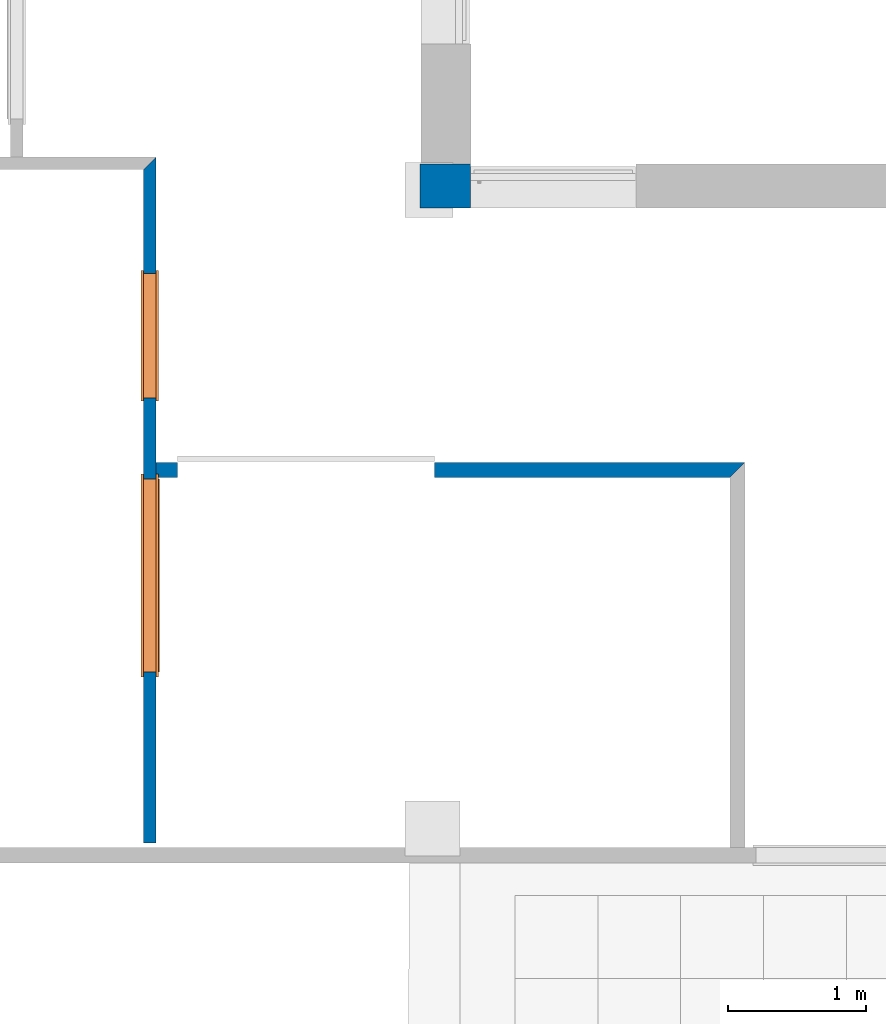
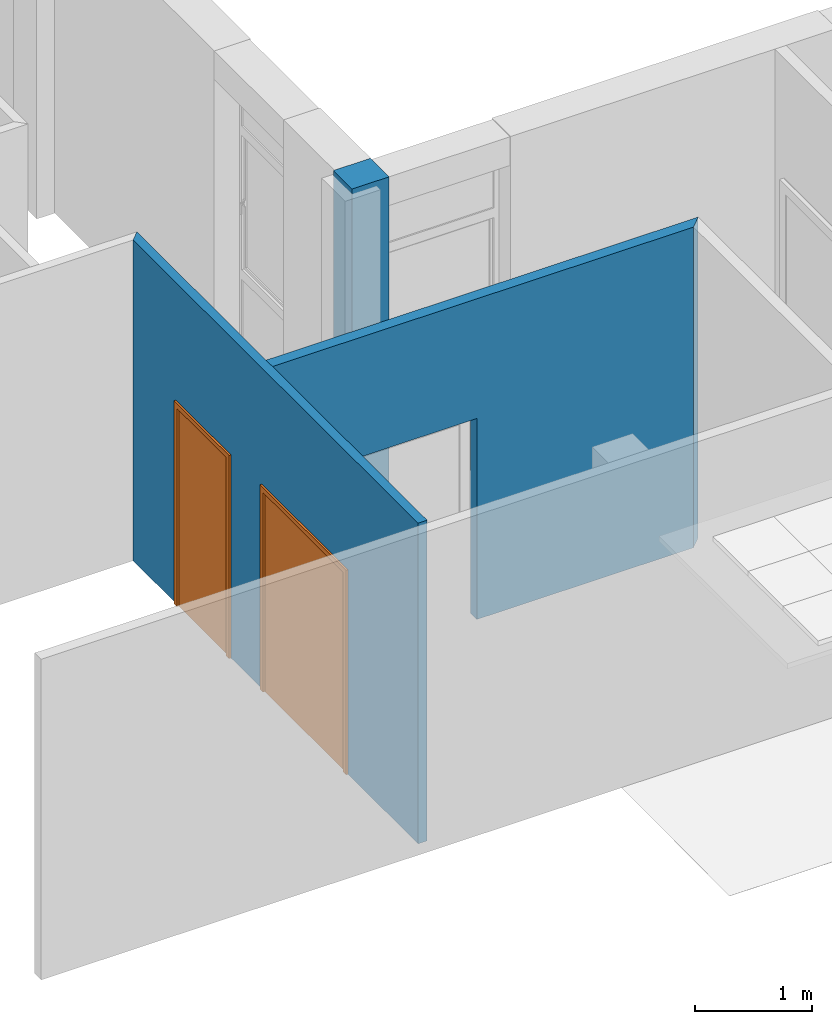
# One storey, part 23 of 60: 3 walls, 2 proxies, 3 openings.
"""IFC2X3 building model written with IfcOpenShell, lengths in millimetres."""

from ifc_helpers import new_model, entity, si_unit, converted_unit, derived_unit, money_unit, direction, frame, origin_with_axes, origin_2d_with_axis, place, context, subcontext, project, spatial, polyline, rectangle, outline, extrude, faceted_brep, source, transform, mapped, material, layer, layer_set, layer_usage, type_object, element, fill, save


model = new_model("IFC2X3")

# Units and contexts
model_context = context("Model", 3, precision=0.01, world=origin_with_axes(), true_north=direction((0.0, 1.0)))
body_context = subcontext(model_context, "Body", "Model", "MODEL_VIEW")
ifc_project = project(units=[si_unit("LENGTHUNIT", "METRE", prefix="MILLI"), si_unit("AREAUNIT", "SQUARE_METRE"), si_unit("VOLUMEUNIT", "CUBIC_METRE"), converted_unit("PLANEANGLEUNIT", "DEGREE", entity("IfcPlaneAngleMeasure", 0.0174532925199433), si_unit("PLANEANGLEUNIT", "RADIAN"), dimensions=[0, 0, 0, 0, 0, 0, 0]), money_unit("USD"), converted_unit("TIMEUNIT", "Year", entity("IfcTimeMeasure", 31557600.0), si_unit("TIMEUNIT", "SECOND"), dimensions=[0, 0, 1, 0, 0, 0, 0]), si_unit("MASSUNIT", "GRAM", prefix="KILO"), si_unit("THERMODYNAMICTEMPERATUREUNIT", "DEGREE_CELSIUS"), si_unit("LUMINOUSINTENSITYUNIT", "LUMEN"), si_unit("ENERGYUNIT", "JOULE", prefix="MEGA"), derived_unit("THERMALCONDUCTANCEUNIT", [(si_unit("POWERUNIT", "WATT"), 1), (si_unit("LENGTHUNIT", "METRE"), -1), (si_unit("THERMODYNAMICTEMPERATUREUNIT", "KELVIN"), -1)]), derived_unit("SPECIFICHEATCAPACITYUNIT", [(si_unit("ENERGYUNIT", "JOULE"), 1), (si_unit("MASSUNIT", "GRAM", prefix="KILO"), -1), (si_unit("THERMODYNAMICTEMPERATUREUNIT", "KELVIN"), -1)]), derived_unit("MASSDENSITYUNIT", [(si_unit("MASSUNIT", "GRAM", prefix="KILO"), 1), (si_unit("VOLUMEUNIT", "CUBIC_METRE"), -1)])], contexts=[model_context])

# Site, building, storey
site_placement = place(None, origin_with_axes())
site = spatial("IfcSite", under=ifc_project, at=site_placement, Name="Sitio", CompositionType="ELEMENT")
building_placement = place(site_placement, origin_with_axes())
building = spatial("IfcBuilding", under=site, at=building_placement, Name="Construcción", CompositionType="ELEMENT")
storey_placement = place(building_placement, frame((0.0, 0.0, 3650.0), z_axis=(0.0, 0.0, 1.0), x_axis=(1.0, 0.0, 0.0)))
storey = spatial("IfcBuildingStorey", under=building, at=storey_placement, Name="PLANTA 2ª", CompositionType="ELEMENT", Elevation=3650.0)

# Wall
ifc_material_1 = material(Name="ARQ_CE217_Gero")
ifc_layer_1 = layer(ifc_material_1, 150.0, ventilated="UNKNOWN")
ifc_material_2 = material(Name="ARQ_AI031_Aillament_Poliestireno expandido EPS")
ifc_layer_2 = layer(ifc_material_2, 100.0, ventilated="UNKNOWN")
ifc_material_3 = material(Name="ARQ_CE218_Ceramic")
ifc_layer_3 = layer(ifc_material_3, 50.0, ventilated="UNKNOWN")
ifc_material_4 = material(Name="ARQ_AM246_Arrebossat_De_Guix")
ifc_layer_4 = layer(ifc_material_4, 20.0, ventilated="UNKNOWN")
ifc_layer_set_1 = layer_set([ifc_layer_1, ifc_layer_2, ifc_layer_3, ifc_layer_4], Name="façana pati CR3")
ifc_layer_usage_1 = layer_usage(ifc_layer_set_1, "AXIS2", "POSITIVE", -320.0)
wall_type_1 = type_object("IfcWallType", Name="façana pati CR3 320", PredefinedType="NOTDEFINED")
wall_1_placement = place(storey_placement, frame((-27692.52587573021, -12338.97582371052, 0.0), z_axis=(0.0, 0.0, 1.0), x_axis=(-1.0, 0.0, 0.0)))
element("IfcWallStandardCase", 1, at=wall_1_placement, inside=storey, type_object=wall_type_1, material=ifc_layer_usage_1, Name="MS-201", context=body_context, shape_type="SweptSolid", body=[
    extrude(outline(polyline([(0.0, -320.0000000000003), (367.6612978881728, -320.0000000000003), (367.6612978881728, 0.0), (0.0, 0.0), (0.0, -320.0000000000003)])), origin_with_axes(), (0.0, 0.0, 1.0), 3350.0),
])

# Wall, opening
ifc_layer_5 = layer(ifc_material_4, 10.0, ventilated="UNKNOWN")
ifc_layer_6 = layer(ifc_material_1, 90.0, ventilated="UNKNOWN")
ifc_layer_7 = layer(ifc_material_4, 10.0, ventilated="UNKNOWN")
ifc_layer_set_2 = layer_set([ifc_layer_5, ifc_layer_6, ifc_layer_7], Name="CR Enva Totxana")
ifc_layer_usage_2 = layer_usage(ifc_layer_set_2, "AXIS2", "POSITIVE", 0.0)
wall_type_2 = type_object("IfcWallType", Name="CR Enva Totxana 110", PredefinedType="NOTDEFINED")
wall_2_placement = place(storey_placement, frame((-25702.67583112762, -14180.94375341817, 0.0), z_axis=(0.0, 0.0, 1.0), x_axis=(-1.0, 0.0, 0.0)))
wall_2 = element("IfcWallStandardCase", 2, at=wall_2_placement, inside=storey, type_object=wall_type_2, material=ifc_layer_usage_2, Name="MS-201", context=body_context, shape_type="SweptSolid", body=[
    extrude(outline(polyline([(0.0, 0.0), (4269.999999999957, 0.0), (4269.999999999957, 109.9999999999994), (109.9999999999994, 109.9999999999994), (0.0, 0.0)])), origin_with_axes(), (0.0, 0.0, 1.0), 3350.0),
])
opening_1_placement = place(wall_2_placement, frame((3181.425102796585, 0.0, 0.0), z_axis=(0.0, 0.0, 1.0), x_axis=(1.0, 0.0, 0.0)))
element("IfcOpeningElement", 3, at=opening_1_placement, cuts=wall_2, Name="PF-13D", context=body_context, shape_type="SweptSolid", body=[
    extrude(rectangle(XDim=1861.353510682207, YDim=2100.0, at=origin_2d_with_axis()), frame((0.0, 109.9999999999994, 1050.0), z_axis=(0.0, -1.0, 0.0), x_axis=(-1.0, 0.0, 0.0)), (0.0, 0.0, 1.0), 329.9999999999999),
])

# Wall, openings, proxies
ifc_layer_8 = layer(ifc_material_4, 10.0, ventilated="UNKNOWN")
ifc_layer_9 = layer(ifc_material_1, 70.0, ventilated="UNKNOWN")
ifc_layer_10 = layer(ifc_material_4, 10.0, ventilated="UNKNOWN")
ifc_layer_set_3 = layer_set([ifc_layer_8, ifc_layer_9, ifc_layer_10], Name="CR Enva Totxaneta")
ifc_layer_usage_3 = layer_usage(ifc_layer_set_3, "AXIS2", "POSITIVE", 0.0)
wall_type_3 = type_object("IfcWallType", Name="CR Enva Totxaneta 90", PredefinedType="NOTDEFINED")
wall_3_placement = place(storey_placement, frame((-29972.67583112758, -16938.97598839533, 0.0), z_axis=(0.0, 0.0, 1.0), x_axis=(0.0, 1.0, 0.0)))
wall_3 = element("IfcWallStandardCase", 4, at=wall_3_placement, inside=storey, type_object=wall_type_3, material=ifc_layer_usage_3, Name="MS-203", context=body_context, shape_type="SweptSolid", body=[
    extrude(outline(polyline([(0.0, 0.0), (4969.247738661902, 0.0), (4879.247738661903, 89.99999999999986), (0.0, 89.99999999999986), (0.0, 0.0)])), origin_with_axes(), (0.0, 0.0, 1.0), 3350.0),
])
opening_2_placement = place(wall_3_placement, frame((3674.227627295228, 0.0, 0.0), z_axis=(0.0, 0.0, 1.0), x_axis=(1.0, 0.0, 0.0)))
opening_2 = element("IfcOpeningElement", 5, at=opening_2_placement, cuts=wall_3, Name="PF-26D", context=body_context, shape_type="SweptSolid", body=[
    extrude(rectangle(XDim=899.9999999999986, YDim=2100.0, at=origin_2d_with_axis()), frame((0.0, -89.99999999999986, 1050.0), z_axis=(0.0, -1.0, 0.0), x_axis=(-1.0, 0.0, 0.0)), (0.0, 0.0, -1.0), 270.0),
    extrude(rectangle(XDim=943.9999999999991, YDim=2122.0, at=origin_2d_with_axis()), frame((0.0, 0.0, 1061.0), z_axis=(0.0, -1.0, 0.0), x_axis=(-1.0, 0.0, 0.0)), (0.0, 0.0, 1.0), 90.0),
    extrude(rectangle(XDim=943.9999999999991, YDim=2122.0, at=origin_2d_with_axis()), frame((0.0, 89.99999999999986, 1061.0), z_axis=(0.0, 1.0, 0.0), x_axis=(-1.0, 0.0, 0.0)), (0.0, 0.0, 1.0), 90.0),
])
opening_3_placement = place(wall_3_placement, frame((1937.365838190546, 0.0, 0.0), z_axis=(0.0, 0.0, 1.0), x_axis=(1.0, 0.0, 0.0)))
opening_3 = element("IfcOpeningElement", 6, at=opening_3_placement, cuts=wall_3, Name="PF-32D", context=body_context, shape_type="SweptSolid", body=[
    extrude(rectangle(XDim=1399.999999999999, YDim=2100.0, at=origin_2d_with_axis()), frame((0.0, -89.99999999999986, 1050.0), z_axis=(0.0, 1.0, 0.0), x_axis=(1.0, 0.0, 0.0)), (0.0, 0.0, 1.0), 270.0),
    extrude(rectangle(XDim=1474.0, YDim=2137.0, at=origin_2d_with_axis()), frame((0.0, 0.0, 1068.5), z_axis=(0.0, 1.0, 0.0), x_axis=(1.0, 0.0, 0.0)), (0.0, 0.0, -1.0), 90.0),
    extrude(rectangle(XDim=1474.0, YDim=2137.0, at=origin_2d_with_axis()), frame((0.0, 89.99999999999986, 1068.5), z_axis=(0.0, -1.0, 0.0), x_axis=(1.0, 0.0, 0.0)), (0.0, 0.0, -1.0), 90.0),
])
building_element_proxy_type_1 = type_object("IfcBuildingElementProxyType", Name="Puerta 27", PredefinedType="NOTDEFINED")
shared_shape_1 = source(origin_with_axes(), body_context, "Body", "Brep", [
    faceted_brep([(472.0000000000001, -109.0, 0.0), (422.0000000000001, -109.0, 0.0), (422.0000000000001, -90.0, 0.0), (472.0000000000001, -90.0, 0.0), (472.0000000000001, -109.0000000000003, 2122.0), (422.0000000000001, -109.0000000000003, 2072.0), (422.0000000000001, -90.00000000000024, 2072.0), (472.0000000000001, -90.00000000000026, 2122.0)], [[[0, 1, 2, 3]], [[0, 4, 5, 1]], [[1, 5, 6, 2]], [[3, 2, 6, 7]], [[4, 0, 3, 7]], [[5, 4, 7, 6]]]),
    faceted_brep([(-472.0000000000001, -109.0000000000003, 2122.0), (-422.0000000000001, -109.0000000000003, 2072.0), (-422.0000000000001, -90.00000000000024, 2072.0), (-472.0000000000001, -90.00000000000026, 2122.0), (-472.0000000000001, -109.0, 0.0), (-422.0000000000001, -109.0, 0.0), (-422.0000000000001, -90.0, 0.0), (-472.0000000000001, -90.0, 0.0)], [[[0, 1, 2, 3]], [[0, 4, 5, 1]], [[1, 5, 6, 2]], [[3, 2, 6, 7]], [[4, 0, 3, 7]], [[5, 4, 7, 6]]]),
    faceted_brep([(472.0000000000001, -109.0000000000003, 2122.0), (422.0000000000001, -109.0000000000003, 2072.0), (422.0000000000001, -90.00000000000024, 2072.0), (472.0000000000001, -90.00000000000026, 2122.0), (-472.0000000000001, -109.0000000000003, 2122.0), (-422.0000000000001, -109.0000000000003, 2072.0), (-422.0000000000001, -90.00000000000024, 2072.0), (-472.0000000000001, -90.00000000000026, 2122.0)], [[[0, 1, 2, 3]], [[0, 4, 5, 1]], [[1, 5, 6, 2]], [[3, 2, 6, 7]], [[4, 0, 3, 7]], [[5, 4, 7, 6]]]),
    faceted_brep([(472.0000000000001, 19.0, 0.0), (472.0000000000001, 0.0, 0.0), (422.0000000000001, 0.0, 0.0), (422.0000000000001, 19.0, 0.0), (472.0000000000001, 18.99999999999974, 2122.0), (472.0000000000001, 0.0, 2122.0), (422.0000000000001, 0.0, 2072.0), (422.0000000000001, 18.99999999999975, 2072.0)], [[[0, 1, 2, 3]], [[4, 5, 1, 0]], [[1, 5, 6, 2]], [[3, 2, 6, 7]], [[0, 3, 7, 4]], [[7, 6, 5, 4]]]),
    faceted_brep([(-472.0000000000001, 18.99999999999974, 2122.0), (-472.0000000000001, 0.0, 2122.0), (-422.0000000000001, 0.0, 2072.0), (-422.0000000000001, 18.99999999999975, 2072.0), (-472.0000000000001, 19.0, 0.0), (-472.0000000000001, 0.0, 0.0), (-422.0000000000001, 0.0, 0.0), (-422.0000000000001, 19.0, 0.0)], [[[0, 1, 2, 3]], [[4, 5, 1, 0]], [[1, 5, 6, 2]], [[3, 2, 6, 7]], [[0, 3, 7, 4]], [[7, 6, 5, 4]]]),
    faceted_brep([(472.0000000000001, 18.99999999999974, 2122.0), (472.0000000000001, 0.0, 2122.0), (422.0, 0.0, 2072.0), (422.0, 18.99999999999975, 2072.0), (-472.0000000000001, 18.99999999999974, 2122.0), (-472.0000000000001, 0.0, 2122.0), (-422.0, 0.0, 2072.0), (-422.0, 18.99999999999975, 2072.0)], [[[0, 1, 2, 3]], [[4, 5, 1, 0]], [[1, 5, 6, 2]], [[3, 2, 6, 7]], [[0, 3, 7, 4]], [[7, 6, 5, 4]]]),
    faceted_brep([(409.9999999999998, -40.0, 0.0), (410.0000000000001, -90.0, 0.0), (410.0000000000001, -90.0, 2060.0), (410.0000000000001, -40.0, 2060.0), (422.0000000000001, -40.0, 0.0), (422.0000000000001, 0.0, 0.0), (449.9999999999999, 0.0, 0.0), (449.9999999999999, -90.0, 0.0), (449.9999999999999, -90.0, 2060.0), (422.0000000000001, -40.0, 2060.0), (449.9999999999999, 0.0, 2060.0), (422.0000000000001, 0.0, 2060.0)], [[[0, 1, 2, 3]], [[4, 5, 6, 7, 1, 0]], [[1, 7, 8, 2]], [[9, 3, 2, 8, 10, 11]], [[9, 4, 0, 3]], [[11, 5, 4, 9]], [[11, 10, 6, 5]], [[6, 10, 8, 7]]]),
    faceted_brep([(-422.0000000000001, -40.0, 2060.0), (-422.0000000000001, 0.0, 2060.0), (-449.9999999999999, 0.0, 2060.0), (-449.9999999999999, -90.0, 2060.0), (-410.0000000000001, -90.0, 2060.0), (-410.0000000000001, -40.0, 2060.0), (-422.0000000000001, -40.0, 0.0), (-422.0000000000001, 0.0, 0.0), (-449.9999999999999, 0.0, 0.0), (-449.9999999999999, -90.0, 0.0), (-410.0000000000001, -90.0, 0.0), (-410.0000000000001, -40.0, 0.0)], [[[0, 1, 2, 3, 4, 5]], [[0, 6, 7, 1]], [[7, 8, 2, 1]], [[2, 8, 9, 3]], [[3, 9, 10, 4]], [[5, 4, 10, 11]], [[5, 11, 6, 0]], [[6, 11, 10, 9, 8, 7]]]),
    faceted_brep([(422.0000000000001, 0.0, 2072.0), (-422.0000000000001, 0.0, 2072.0), (-422.0000000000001, 0.0, 2060.0), (-450.0, 0.0, 2060.0), (-450.0, 0.0, 2100.0), (450.0, 0.0, 2100.0), (450.0, 0.0, 2060.0), (422.0000000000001, 0.0, 2060.0), (422.0000000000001, -40.0, 2072.0), (-422.0000000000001, -40.0, 2072.0), (-422.0000000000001, -40.0, 2060.0), (-410.0000000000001, -40.0, 2060.0), (-410.0000000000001, -90.0, 2060.0), (-450.0, -90.0, 2060.0), (-450.0, -90.0, 2100.0), (450.0, -90.0, 2100.0), (450.0, -90.0, 2060.0), (422.0000000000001, -40.0, 2060.0), (410.0000000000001, -90.0, 2060.0), (410.0000000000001, -40.0, 2060.0)], [[[0, 1, 2, 3, 4, 5, 6, 7]], [[0, 8, 9, 1]], [[1, 9, 10, 2]], [[10, 11, 12, 13, 3, 2]], [[4, 3, 13, 14]], [[5, 4, 14, 15]], [[6, 5, 15, 16]], [[17, 7, 6, 16, 18, 19]], [[7, 17, 8, 0]], [[10, 9, 8, 17, 19, 11]], [[19, 18, 12, 11]], [[12, 18, 16, 15, 14, 13]]]),
    faceted_brep([(-421.9999999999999, 0.0, 0.0), (422.0000000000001, 0.0, 0.0), (422.0000000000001, -40.0, 0.0), (-421.9999999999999, -40.0, 0.0), (-421.9999999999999, 0.0, 2072.0), (422.0000000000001, 0.0, 2072.0), (422.0000000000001, -40.00000000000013, 2072.0), (-421.9999999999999, -40.00000000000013, 2072.0)], [[[0, 1, 2, 3]], [[0, 4, 5, 1]], [[1, 5, 6, 2]], [[3, 2, 6, 7]], [[4, 0, 3, 7]], [[5, 4, 7, 6]]]),
])
proxy_1_placement = place(opening_2_placement, frame((-449.9999999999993, 0.0, 0.0), z_axis=(0.0, 0.0, 1.0), x_axis=(1.0, 0.0, 0.0)))
proxy_1 = element("IfcBuildingElementProxy", 7, at=proxy_1_placement, inside=storey, type_object=building_element_proxy_type_1, Name="PF-26D", context=body_context, shape_type="MappedRepresentation", body=[
    mapped(shared_shape_1, transform((449.9999999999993, 89.99999999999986, 0.0))),
])
fill(opening_2, proxy_1)
building_element_proxy_type_2 = type_object("IfcBuildingElementProxyType", Name="Puerta Doble 27", PredefinedType="NOTDEFINED")
shared_shape_2 = source(origin_with_axes(), body_context, "Body", "Brep", [
    faceted_brep([(-737.0, -109.0, 0.0), (-737.0, -90.0, 0.0), (-687.0, -90.0, 0.0), (-687.0, -109.0, 0.0), (-737.0, -109.0000000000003, 2137.0), (-737.0, -90.00000000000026, 2137.0), (-687.0, -90.00000000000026, 2087.0), (-687.0, -109.0000000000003, 2087.0)], [[[0, 1, 2, 3]], [[4, 5, 1, 0]], [[1, 5, 6, 2]], [[3, 2, 6, 7]], [[0, 3, 7, 4]], [[7, 6, 5, 4]]]),
    faceted_brep([(737.0, -109.0000000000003, 2137.0), (737.0, -90.00000000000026, 2137.0), (687.0, -90.00000000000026, 2087.0), (687.0, -109.0000000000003, 2087.0), (737.0, -109.0, 0.0), (737.0, -90.0, 0.0), (687.0, -90.0, 0.0), (687.0, -109.0, 0.0)], [[[0, 1, 2, 3]], [[4, 5, 1, 0]], [[1, 5, 6, 2]], [[3, 2, 6, 7]], [[0, 3, 7, 4]], [[7, 6, 5, 4]]]),
    faceted_brep([(-737.0, -109.0000000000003, 2137.0), (-737.0, -90.00000000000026, 2137.0), (-687.0, -90.00000000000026, 2087.0), (-687.0, -109.0000000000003, 2087.0), (737.0, -109.0000000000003, 2137.0), (737.0, -90.00000000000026, 2137.0), (687.0, -90.00000000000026, 2087.0), (687.0, -109.0000000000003, 2087.0)], [[[0, 1, 2, 3]], [[4, 5, 1, 0]], [[1, 5, 6, 2]], [[3, 2, 6, 7]], [[0, 3, 7, 4]], [[7, 6, 5, 4]]]),
    faceted_brep([(-737.0, 19.0, 0.0), (-687.0, 19.0, 0.0), (-687.0, 0.0, 0.0), (-737.0, 0.0, 0.0), (-737.0, 18.99999999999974, 2137.0), (-687.0, 18.99999999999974, 2087.0), (-687.0, 0.0, 2087.0), (-737.0, 0.0, 2137.0)], [[[0, 1, 2, 3]], [[0, 4, 5, 1]], [[1, 5, 6, 2]], [[3, 2, 6, 7]], [[4, 0, 3, 7]], [[5, 4, 7, 6]]]),
    faceted_brep([(737.0, 18.99999999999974, 2137.0), (687.0, 18.99999999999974, 2087.0), (687.0, 0.0, 2087.0), (737.0, 0.0, 2137.0), (737.0, 19.0, 0.0), (687.0, 19.0, 0.0), (687.0, 0.0, 0.0), (737.0, 0.0, 0.0)], [[[0, 1, 2, 3]], [[0, 4, 5, 1]], [[1, 5, 6, 2]], [[3, 2, 6, 7]], [[4, 0, 3, 7]], [[5, 4, 7, 6]]]),
    faceted_brep([(-737.0, 18.99999999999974, 2137.0), (-687.0, 18.99999999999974, 2087.0), (-687.0, 0.0, 2087.0), (-737.0, 0.0, 2137.0), (737.0, 18.99999999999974, 2137.0), (687.0, 18.99999999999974, 2087.0), (687.0, 0.0, 2087.0), (737.0, 0.0, 2137.0)], [[[0, 1, 2, 3]], [[0, 4, 5, 1]], [[1, 5, 6, 2]], [[3, 2, 6, 7]], [[4, 0, 3, 7]], [[5, 4, 7, 6]]]),
    faceted_brep([(-659.9999999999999, -40.0, 0.0), (-659.9999999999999, -39.99999999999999, 2060.0), (-659.9999999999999, -115.0, 2060.0), (-659.9999999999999, -115.0, 0.0), (-671.9999999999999, -40.0, 2060.0), (-671.9999999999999, -40.0, 0.0), (-671.9999999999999, 0.0, 2060.0), (-700.0, 0.0, 2060.0), (-700.0, -115.0, 2060.0), (-700.0, -115.0, 0.0), (-700.0, 0.0, 0.0), (-671.9999999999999, 0.0, 0.0)], [[[0, 1, 2, 3]], [[4, 1, 0, 5]], [[4, 6, 7, 8, 2, 1]], [[3, 2, 8, 9]], [[5, 0, 3, 9, 10, 11]], [[6, 4, 5, 11]], [[6, 11, 10, 7]], [[10, 9, 8, 7]]]),
    faceted_brep([(671.9999999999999, -40.0, 2060.0), (659.9999999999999, -39.99999999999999, 2060.0), (659.9999999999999, -115.0, 2060.0), (700.0, -115.0, 2060.0), (700.0, 0.0, 2060.0), (671.9999999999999, 0.0, 2060.0), (671.9999999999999, -40.0, 0.0), (659.9999999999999, -40.0, 0.0), (659.9999999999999, -115.0, 0.0), (700.0, -115.0, 0.0), (700.0, 0.0, 0.0), (671.9999999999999, 0.0, 0.0)], [[[0, 1, 2, 3, 4, 5]], [[1, 0, 6, 7]], [[1, 7, 8, 2]], [[3, 2, 8, 9]], [[4, 3, 9, 10]], [[11, 5, 4, 10]], [[0, 5, 11, 6]], [[6, 11, 10, 9, 8, 7]]]),
    faceted_brep([(-671.9999999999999, 0.0, 2072.0), (-671.9999999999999, 0.0, 2060.0), (-700.0, 0.0, 2060.0), (-700.0, 0.0, 2100.0), (700.0, 0.0, 2100.0), (700.0, 0.0, 2060.0), (671.9999999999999, 0.0, 2060.0), (671.9999999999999, 0.0, 2072.0), (-671.9999999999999, -40.0, 2072.0), (-671.9999999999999, -40.0, 2060.0), (-659.9999999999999, -39.99999999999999, 2060.0), (-659.9999999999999, -115.0, 2060.0), (-700.0, -115.0, 2060.0), (-700.0, -115.0, 2100.0), (700.0, -115.0, 2100.0), (700.0, -115.0, 2060.0), (671.9999999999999, -40.0, 2060.0), (659.9999999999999, -115.0, 2060.0), (659.9999999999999, -39.99999999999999, 2060.0), (671.9999999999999, -40.0, 2072.0)], [[[0, 1, 2, 3, 4, 5, 6, 7]], [[1, 0, 8, 9]], [[9, 10, 11, 12, 2, 1]], [[2, 12, 13, 3]], [[3, 13, 14, 4]], [[4, 14, 15, 5]], [[16, 6, 5, 15, 17, 18]], [[7, 6, 16, 19]], [[0, 7, 19, 8]], [[16, 18, 10, 9, 8, 19]], [[10, 18, 17, 11]], [[17, 15, 14, 13, 12, 11]]]),
    faceted_brep([(671.9999999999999, 0.0, 0.0), (671.9999999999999, -40.0, 0.0), (0.0, -40.0, 0.0), (0.0, 0.0, 0.0), (671.9999999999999, 0.0, 2072.0), (671.9999999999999, -40.00000000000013, 2072.0), (0.0, -40.00000000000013, 2072.0), (0.0, 0.0, 2072.0)], [[[0, 1, 2, 3]], [[4, 5, 1, 0]], [[1, 5, 6, 2]], [[3, 2, 6, 7]], [[0, 3, 7, 4]], [[7, 6, 5, 4]]]),
    faceted_brep([(-671.9999999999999, 0.0, 0.0), (0.0, 0.0, 0.0), (0.0, -40.0, 0.0), (-671.9999999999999, -40.0, 0.0), (-671.9999999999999, 0.0, 2072.0), (0.0, 0.0, 2072.0), (0.0, -40.00000000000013, 2072.0), (-671.9999999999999, -40.00000000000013, 2072.0)], [[[0, 1, 2, 3]], [[0, 4, 5, 1]], [[1, 5, 6, 2]], [[3, 2, 6, 7]], [[4, 0, 3, 7]], [[5, 4, 7, 6]]]),
])
proxy_2_placement = place(opening_3_placement, frame((-699.9999999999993, 0.0, 0.0), z_axis=(0.0, 0.0, 1.0), x_axis=(1.0, 0.0, 0.0)))
proxy_2 = element("IfcBuildingElementProxy", 8, at=proxy_2_placement, inside=storey, type_object=building_element_proxy_type_2, Name="PF-32D", context=body_context, shape_type="MappedRepresentation", body=[
    mapped(shared_shape_2, transform((699.9999999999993, 89.99999999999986, 0.0))),
])
fill(opening_3, proxy_2)

save(model, "model.ifc")
